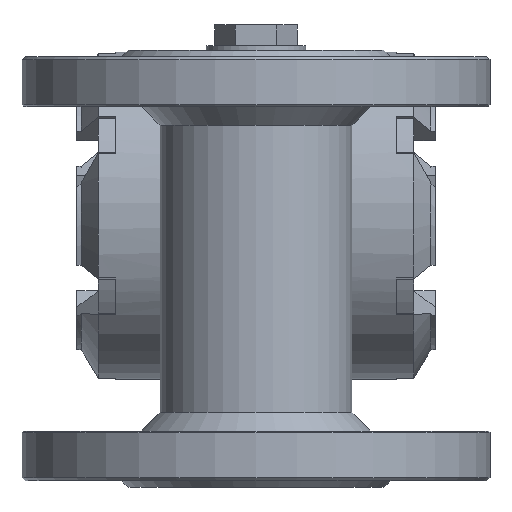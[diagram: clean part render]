
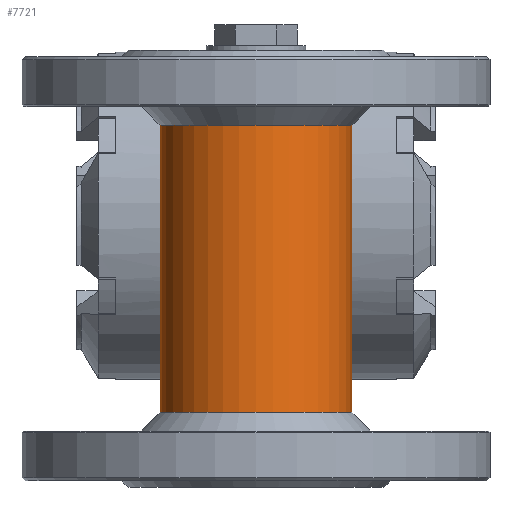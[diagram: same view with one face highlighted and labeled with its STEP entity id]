
A CAD part, front view. The second image highlights one B-rep face of the part: STEP entity #7721.
In plain terms, the highlighted cylindrical face has radius 30.75 mm (diameter 61.5 mm), a full revolution.
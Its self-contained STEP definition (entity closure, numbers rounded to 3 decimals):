
#786=CIRCLE('',#27607,30.75);
#787=CIRCLE('',#27608,30.75);
#3143=LINE('',#45350,#5958);
#3144=LINE('',#45370,#5959);
#5958=VECTOR('',#32606,1.);
#5959=VECTOR('',#32607,1.);
#6102=CYLINDRICAL_SURFACE('',#27609,30.75);
#6318=FACE_BOUND('',#11253,.T.);
#6319=FACE_BOUND('',#11254,.T.);
#6320=FACE_BOUND('',#11255,.T.);
#7721=ADVANCED_FACE('',(#6318,#6319,#6320),#6102,.T.);
#11253=EDGE_LOOP('',(#18519));
#11254=EDGE_LOOP('',(#18520));
#11255=EDGE_LOOP('',(#18521,#18522,#18523,#18524,#18525,#18526,#18527,#18528));
#18519=ORIENTED_EDGE('',*,*,#24858,.T.);
#18520=ORIENTED_EDGE('',*,*,#24859,.T.);
#18521=ORIENTED_EDGE('',*,*,#24860,.T.);
#18522=ORIENTED_EDGE('',*,*,#24861,.T.);
#18523=ORIENTED_EDGE('',*,*,#24862,.T.);
#18524=ORIENTED_EDGE('',*,*,#24863,.T.);
#18525=ORIENTED_EDGE('',*,*,#24864,.T.);
#18526=ORIENTED_EDGE('',*,*,#24865,.T.);
#18527=ORIENTED_EDGE('',*,*,#24866,.T.);
#18528=ORIENTED_EDGE('',*,*,#24867,.T.);
#21179=VERTEX_POINT('',#45347);
#21180=VERTEX_POINT('',#45349);
#21181=VERTEX_POINT('',#45351);
#21182=VERTEX_POINT('',#45352);
#21183=VERTEX_POINT('',#45357);
#21184=VERTEX_POINT('',#45364);
#21185=VERTEX_POINT('',#45369);
#21186=VERTEX_POINT('',#45371);
#21187=VERTEX_POINT('',#45376);
#21188=VERTEX_POINT('',#45383);
#24858=EDGE_CURVE('',#21179,#21179,#786,.T.);
#24859=EDGE_CURVE('',#21180,#21180,#787,.T.);
#24860=EDGE_CURVE('',#21181,#21182,#3143,.T.);
#24861=EDGE_CURVE('',#21182,#21183,#26553,.T.);
#24862=EDGE_CURVE('',#21183,#21184,#26554,.T.);
#24863=EDGE_CURVE('',#21184,#21185,#26555,.T.);
#24864=EDGE_CURVE('',#21185,#21186,#3144,.T.);
#24865=EDGE_CURVE('',#21186,#21187,#26556,.T.);
#24866=EDGE_CURVE('',#21187,#21188,#26557,.T.);
#24867=EDGE_CURVE('',#21188,#21181,#26558,.T.);
#26553=B_SPLINE_CURVE_WITH_KNOTS('',3,(#45353,#45354,#45355,#45356),
 .UNSPECIFIED.,.F.,.F.,(4,4),(0.,1.),.UNSPECIFIED.);
#26554=B_SPLINE_CURVE_WITH_KNOTS('',3,(#45358,#45359,#45360,#45361,#45362,
#45363),.UNSPECIFIED.,.F.,.F.,(4,2,4),(0.,0.5,1.),.UNSPECIFIED.);
#26555=B_SPLINE_CURVE_WITH_KNOTS('',3,(#45365,#45366,#45367,#45368),
 .UNSPECIFIED.,.F.,.F.,(4,4),(0.,1.),.UNSPECIFIED.);
#26556=B_SPLINE_CURVE_WITH_KNOTS('',3,(#45372,#45373,#45374,#45375),
 .UNSPECIFIED.,.F.,.F.,(4,4),(0.,1.),.UNSPECIFIED.);
#26557=B_SPLINE_CURVE_WITH_KNOTS('',3,(#45377,#45378,#45379,#45380,#45381,
#45382),.UNSPECIFIED.,.F.,.F.,(4,2,4),(0.,0.5,1.),.UNSPECIFIED.);
#26558=B_SPLINE_CURVE_WITH_KNOTS('',3,(#45384,#45385,#45386,#45387),
 .UNSPECIFIED.,.F.,.F.,(4,4),(0.,1.),.UNSPECIFIED.);
#27607=AXIS2_PLACEMENT_3D('',#45346,#32602,#32603);
#27608=AXIS2_PLACEMENT_3D('',#45348,#32604,#32605);
#27609=AXIS2_PLACEMENT_3D('',#45388,#32608,#32609);
#32602=DIRECTION('',(0.,0.,1.));
#32603=DIRECTION('',(-1.,0.,0.));
#32604=DIRECTION('',(0.,0.,-1.));
#32605=DIRECTION('',(1.,0.,0.));
#32606=DIRECTION('',(0.,0.,-1.));
#32607=DIRECTION('',(0.,0.,1.));
#32608=DIRECTION('',(0.,0.,-1.));
#32609=DIRECTION('',(1.,0.,0.));
#45346=CARTESIAN_POINT('',(-0.016,-22.,-63.));
#45347=CARTESIAN_POINT('',(-30.766,-22.,-63.));
#45348=CARTESIAN_POINT('',(-0.016,-22.,29.));
#45349=CARTESIAN_POINT('',(30.734,-22.,29.));
#45350=CARTESIAN_POINT('',(-10.241,7.,113.));
#45351=CARTESIAN_POINT('',(-10.241,7.,6.254));
#45352=CARTESIAN_POINT('',(-10.241,7.,-6.254));
#45353=CARTESIAN_POINT('',(-10.241,7.,-6.254));
#45354=CARTESIAN_POINT('',(-9.823,7.147,-7.222));
#45355=CARTESIAN_POINT('',(-9.31,7.319,-8.132));
#45356=CARTESIAN_POINT('',(-8.694,7.5,-8.981));
#45357=CARTESIAN_POINT('',(-8.694,7.5,-8.981));
#45358=CARTESIAN_POINT('',(-8.694,7.5,-8.981));
#45359=CARTESIAN_POINT('',(-6.404,8.174,-11.198));
#45360=CARTESIAN_POINT('',(-3.249,8.749,-12.492));
#45361=CARTESIAN_POINT('',(3.191,8.751,-12.507));
#45362=CARTESIAN_POINT('',(6.365,8.176,-11.221));
#45363=CARTESIAN_POINT('',(8.663,7.5,-9.012));
#45364=CARTESIAN_POINT('',(8.663,7.5,-9.012));
#45365=CARTESIAN_POINT('',(8.663,7.5,-9.012));
#45366=CARTESIAN_POINT('',(9.278,7.319,-8.169));
#45367=CARTESIAN_POINT('',(9.791,7.148,-7.266));
#45368=CARTESIAN_POINT('',(10.21,7.,-6.305));
#45369=CARTESIAN_POINT('',(10.21,7.,-6.305));
#45370=CARTESIAN_POINT('',(10.21,7.,113.));
#45371=CARTESIAN_POINT('',(10.21,7.,6.305));
#45372=CARTESIAN_POINT('',(10.21,7.,6.305));
#45373=CARTESIAN_POINT('',(9.791,7.148,7.266));
#45374=CARTESIAN_POINT('',(9.278,7.319,8.169));
#45375=CARTESIAN_POINT('',(8.663,7.5,9.012));
#45376=CARTESIAN_POINT('',(8.663,7.5,9.012));
#45377=CARTESIAN_POINT('',(8.663,7.5,9.012));
#45378=CARTESIAN_POINT('',(6.365,8.176,11.22));
#45379=CARTESIAN_POINT('',(3.206,8.75,12.504));
#45380=CARTESIAN_POINT('',(-3.234,8.75,12.496));
#45381=CARTESIAN_POINT('',(-6.403,8.174,11.199));
#45382=CARTESIAN_POINT('',(-8.694,7.5,8.981));
#45383=CARTESIAN_POINT('',(-8.694,7.5,8.981));
#45384=CARTESIAN_POINT('',(-8.694,7.5,8.981));
#45385=CARTESIAN_POINT('',(-9.31,7.319,8.132));
#45386=CARTESIAN_POINT('',(-9.823,7.147,7.222));
#45387=CARTESIAN_POINT('',(-10.241,7.,6.254));
#45388=CARTESIAN_POINT('',(-0.016,-22.,113.));
